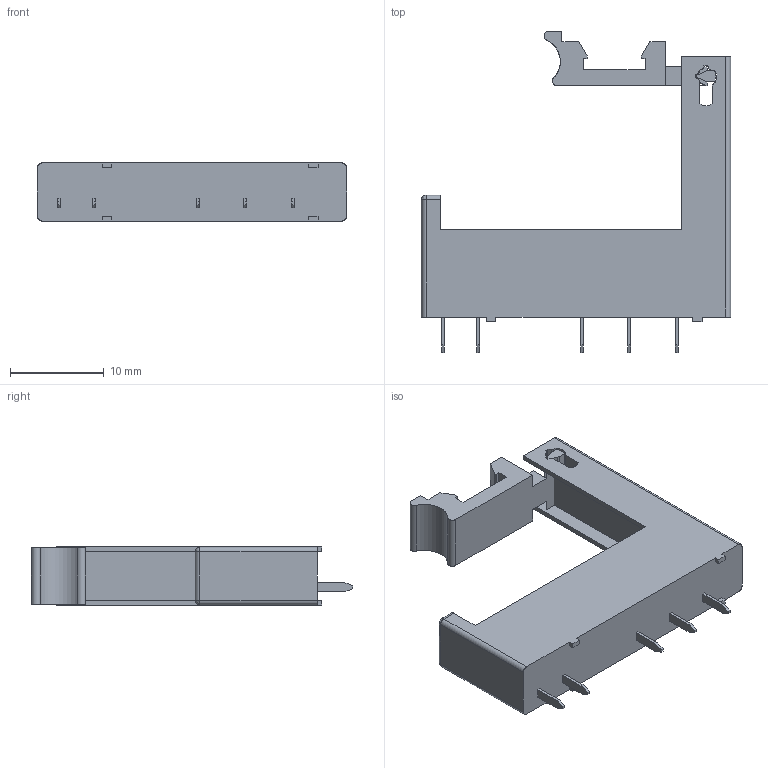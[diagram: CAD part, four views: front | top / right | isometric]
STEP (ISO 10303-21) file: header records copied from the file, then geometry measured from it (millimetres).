
FILE_DESCRIPTION(('STEP AP214'),'2;1');
FILE_NAME('9311_chiuso.stp','2012-01-19T14:17:12',(''),(''),'2007.1.106','THINKDESIGN','');
FILE_SCHEMA(('AUTOMOTIVE_DESIGN'));
Length unit declared in the file: millimetre
Products named in the file (1): None
Bounding box: 33 x 34.3 x 6.2 mm (x, y, z)
Surface area: 2322.8 mm2 (no closed solid volume)
Topology: 0 solids, 0 shells, 174 faces, 970 edges, 968 vertices
Faces by surface type: plane 143, cylinder 29, bspline 2
Entity records: 9561 total; most frequent: CARTESIAN_POINT 2288, DIRECTION 1312, COMPOSITE_CURVE_SEGMENT 968, TRIMMED_CURVE 902, VECTOR 836, LINE 836, AXIS2_PLACEMENT_3D 238, OUTER_BOUNDARY_CURVE 174
